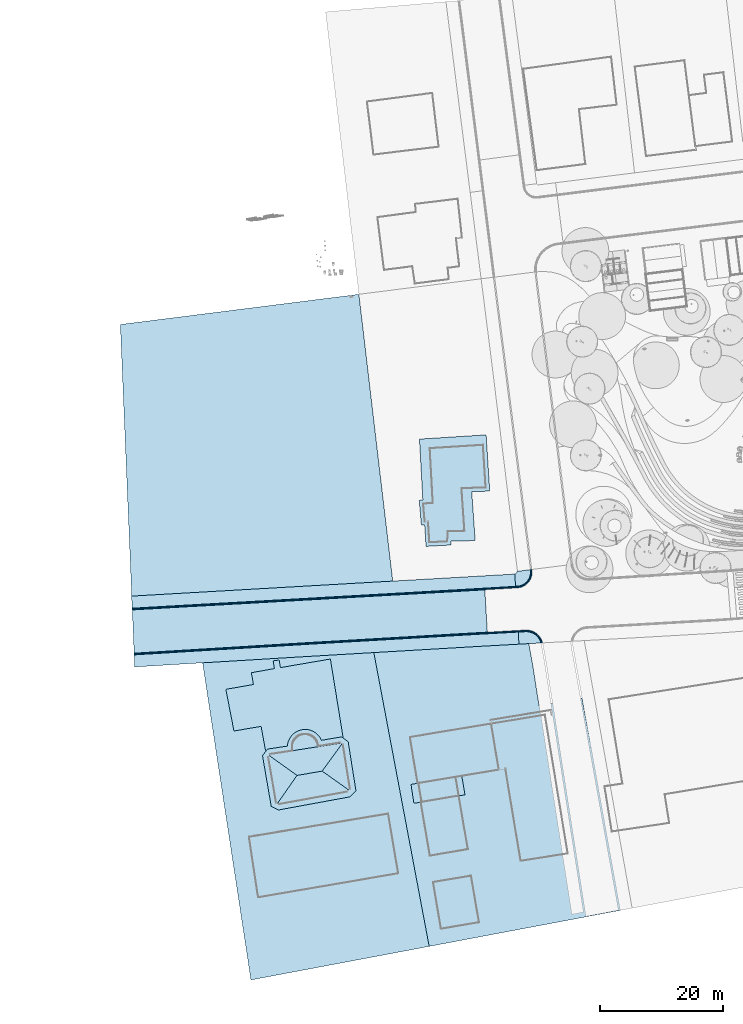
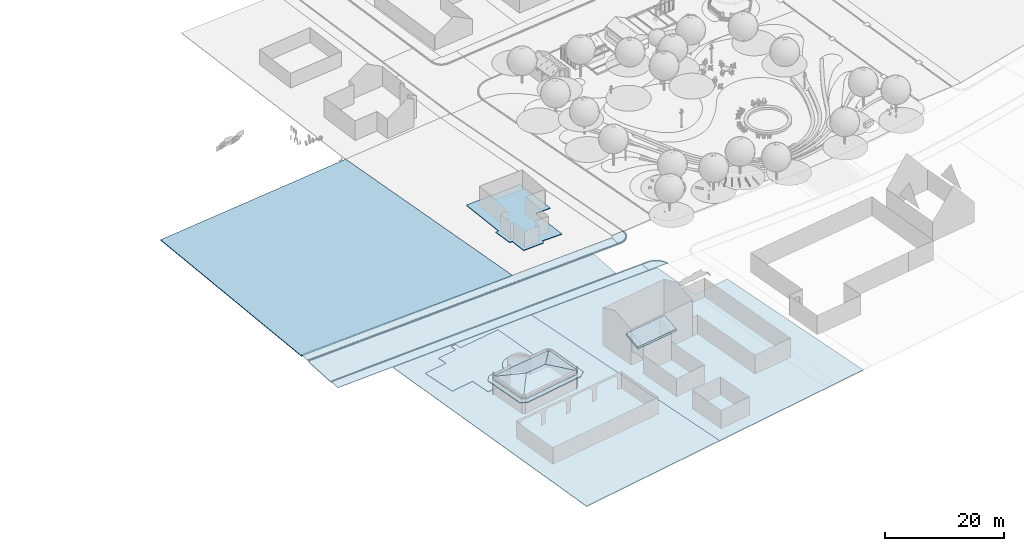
# One storey, part 7 of 75: 20 slabs, 2 elements without a shape of their own.
"""IFC2X3 building model written with IfcOpenShell, lengths in metres."""

import ifcopenshell
import ifcopenshell.guid

model = None  # the IFC model being written
_history = None  # IfcOwnerHistory: only IFC2X3 demands one
_inside = {}  # id of a spatial element -> (the spatial element, [elements in it])
_under = {}  # id of a project, library or spatial element -> (it, [spatial elements below it])
_declared = {}  # id of a project -> (the project, [libraries it declares])
_typed = {}  # id of a type object -> (the type object, [elements of that type])
_made_of = {}  # id of a material, layer set ... -> (it, [elements and type objects made of it])


def new_model(schema):
    """Start an empty IFC model of exactly this schema.

    Asked for "IFC4X3", IfcOpenShell would pick the latest addendum, in which some entities
    have other attributes; the version numbers below select the first issue.
    IFC2X3 requires an IfcOwnerHistory on every rooted entity: one is made here for all.
    """
    global model, _history
    if schema == "IFC4X3":
        model = ifcopenshell.file(schema_version=(4, 3, 0, 0))
    else:
        model = ifcopenshell.file(schema=schema)
    _inside.clear()
    _under.clear()
    _declared.clear()
    _typed.clear()
    _made_of.clear()
    _history = None
    if model.schema == "IFC2X3":
        org = make("IfcOrganization", Name="unknown")
        user = make(
            "IfcPersonAndOrganization",
            ThePerson=make("IfcPerson", FamilyName="unknown"),
            TheOrganization=org,
        )
        app = make(
            "IfcApplication",
            ApplicationDeveloper=org,
            Version="unknown",
            ApplicationFullName="unknown",
            ApplicationIdentifier="unknown",
        )
        _history = make(
            "IfcOwnerHistory",
            OwningUser=user,
            OwningApplication=app,
            ChangeAction="ADDED",
            CreationDate=0,
        )
    return model


def make(cls, **values):
    """One entity of the class cls with the attributes given. An attribute that is None is left unset."""
    return model.create_entity(
        cls, **{name: value for name, value in values.items() if value is not None}
    )


def entity(cls, *values):
    """Any entity or typed value of the class cls, its attributes in the order of the schema. None: left unset."""
    e = model.create_entity(cls)
    for i, value in enumerate(values):
        if value is not None:
            e[i] = value
    return e


def rooted(cls, **values):
    """An entity with a GlobalId (a new one), such as an element, a storey or a relation."""
    return make(cls, GlobalId=ifcopenshell.guid.new(), OwnerHistory=_history, **values)


def si_unit(unit_type, name, prefix=None):
    """IfcSIUnit, for example si_unit("LENGTHUNIT", "METRE", prefix="MILLI")."""
    return make("IfcSIUnit", UnitType=unit_type, Prefix=prefix, Name=name)


def converted_unit(unit_type, name, factor, base, dimensions=None, offset=None):
    """IfcConversionBasedUnit, such as the inch: factor (a typed value) times the base unit."""
    return make(
        "IfcConversionBasedUnit"
        if offset is None
        else "IfcConversionBasedUnitWithOffset",
        ConversionOffset=offset,
        Dimensions=None
        if dimensions is None
        else entity("IfcDimensionalExponents", *dimensions),
        UnitType=unit_type,
        Name=name,
        ConversionFactor=make(
            "IfcMeasureWithUnit", ValueComponent=factor, UnitComponent=base
        ),
    )


def derived_unit(unit_type, elements):
    """IfcDerivedUnit: a product of units, each with its exponent."""
    return make(
        "IfcDerivedUnit",
        Elements=[
            make("IfcDerivedUnitElement", Unit=unit, Exponent=power)
            for unit, power in elements
        ],
        UnitType=unit_type,
    )


def assignment(units):
    """IfcUnitAssignment: the units of a project."""
    return None if units is None else make("IfcUnitAssignment", Units=units)


def point(xyz):
    """IfcCartesianPoint."""
    return None if xyz is None else make("IfcCartesianPoint", Coordinates=xyz)


def direction(xyz):
    """IfcDirection."""
    return None if xyz is None else make("IfcDirection", DirectionRatios=xyz)


def frame(location, z_axis=None, x_axis=None):
    """IfcAxis2Placement3D, a coordinate frame: its origin and axes. An axis left out is left unset."""
    return make(
        "IfcAxis2Placement3D",
        Location=point(location),
        Axis=direction(z_axis),
        RefDirection=direction(x_axis),
    )


def frame_2d(location, x_axis=None):
    """IfcAxis2Placement2D, a coordinate frame in the plane: its origin and x axis."""
    return make(
        "IfcAxis2Placement2D", Location=point(location), RefDirection=direction(x_axis)
    )


def origin():
    """The frame at (0, 0, 0) with its axes left unset."""
    return frame((0.0, 0.0, 0.0))


def place(relative_to, where):
    """IfcLocalPlacement: puts the frame where relative to a parent placement (None: the world)."""
    return make(
        "IfcLocalPlacement", PlacementRelTo=relative_to, RelativePlacement=where
    )


def context(
    kind, dimensions, precision=None, world=None, true_north=None, identifier=None
):
    """IfcGeometricRepresentationContext, for example the 3D "Model" context."""
    return make(
        "IfcGeometricRepresentationContext",
        ContextIdentifier=identifier,
        ContextType=kind,
        CoordinateSpaceDimension=dimensions,
        Precision=precision,
        WorldCoordinateSystem=world,
        TrueNorth=true_north,
    )


def subcontext(parent, identifier, kind, view, scale=None):
    """IfcGeometricRepresentationSubContext, for example "Body" below "Model"."""
    return make(
        "IfcGeometricRepresentationSubContext",
        ContextIdentifier=identifier,
        ContextType=kind,
        ParentContext=parent,
        TargetScale=scale,
        TargetView=view,
    )


def project(units=None, contexts=None):
    """IfcProject with its units and contexts."""
    return rooted(
        "IfcProject",
        Name="project",
        RepresentationContexts=contexts,
        UnitsInContext=assignment(units),
    )


def spatial(cls, under=None, at=None, **own):
    """A site, building, storey or space (cls), placed at a placement, below another one or the project."""
    s = rooted(cls, ObjectPlacement=at, **own)
    if under is not None:
        _under.setdefault(under.id(), (under, []))[1].append(s)
    return s


def polyline(points):
    """IfcPolyline through the points."""
    return make("IfcPolyline", Points=[point(p) for p in points])


def circle_curve(where, radius):
    """IfcCircle in the frame where."""
    return make("IfcCircle", Position=where, Radius=radius)


def parameter(value):
    """IfcParameterValue: where a trimmed curve begins or ends, as a parameter of its basis curve."""
    return model.create_entity("IfcParameterValue", value)


def trimmed(basis, trim1, trim2, sense, master):
    """IfcTrimmedCurve: the piece of a basis curve between two trims."""
    return make(
        "IfcTrimmedCurve",
        BasisCurve=basis,
        Trim1=trim1,
        Trim2=trim2,
        SenseAgreement=sense,
        MasterRepresentation=master,
    )


def segment(curve, same_sense, transition):
    """IfcCompositeCurveSegment."""
    return make(
        "IfcCompositeCurveSegment",
        Transition=transition,
        SameSense=same_sense,
        ParentCurve=curve,
    )


def composite_curve(segments, self_intersect=None):
    """IfcCompositeCurve: segments joined end to end."""
    return make("IfcCompositeCurve", Segments=segments, SelfIntersect=self_intersect)


def outline(outer, holes=None, kind="AREA"):
    """IfcArbitraryClosedProfileDef: a profile drawn as a closed curve; with holes, ...WithVoids."""
    if holes is None:
        return make("IfcArbitraryClosedProfileDef", ProfileType=kind, OuterCurve=outer)
    return make(
        "IfcArbitraryProfileDefWithVoids",
        ProfileType=kind,
        OuterCurve=outer,
        InnerCurves=holes,
    )


def extrude(swept, where, along, depth):
    """IfcExtrudedAreaSolid: the profile swept, set in the frame where, extruded along a direction by depth."""
    return make(
        "IfcExtrudedAreaSolid",
        SweptArea=swept,
        Position=where,
        ExtrudedDirection=direction(along),
        Depth=depth,
    )


def clip(a, b, op="DIFFERENCE"):
    """IfcBooleanClippingResult: the solid a cut by the half space b."""
    return make(
        "IfcBooleanClippingResult", Operator=op, FirstOperand=a, SecondOperand=b
    )


def halfspace(plane, agree):
    """IfcHalfSpaceSolid: all space on one side of the plane z = 0 of the frame plane."""
    return make(
        "IfcHalfSpaceSolid",
        BaseSurface=make("IfcPlane", Position=plane),
        AgreementFlag=agree,
    )


def shape(context_of_items, identifier, shape_type, items):
    """IfcShapeRepresentation: the items that make up one representation, for example the "Body"."""
    return make(
        "IfcShapeRepresentation",
        ContextOfItems=context_of_items,
        RepresentationIdentifier=identifier,
        RepresentationType=shape_type,
        Items=items,
    )


def material(Name=None, Category=None):
    """IfcMaterial."""
    return make("IfcMaterial", Name=Name, Category=Category)


def layer(
    of_material, thickness, ventilated=None, Name=None, Category=None, Priority=None
):
    """IfcMaterialLayer: one layer of a wall or slab, of a material (None: an air gap)."""
    return make(
        "IfcMaterialLayer",
        Material=of_material,
        LayerThickness=thickness,
        IsVentilated=ventilated,
        Name=Name,
        Category=Category,
        Priority=Priority,
    )


def layer_set(layers, Name=None):
    """IfcMaterialLayerSet."""
    return make("IfcMaterialLayerSet", MaterialLayers=layers, LayerSetName=Name)


def layer_usage(for_layer_set, set_direction, sense, offset, extent=None):
    """IfcMaterialLayerSetUsage: how a layer set lies in its element."""
    return make(
        "IfcMaterialLayerSetUsage",
        ForLayerSet=for_layer_set,
        LayerSetDirection=set_direction,
        DirectionSense=sense,
        OffsetFromReferenceLine=offset,
        ReferenceExtent=extent,
    )


def made_of(thing, what):
    """Note that an element or type object is made of a material, layer set ...; save() writes the relation."""
    if what is not None:
        _made_of.setdefault(what.id(), (what, []))[1].append(thing)
    return thing


def type_object(cls, material=None, **own):
    """A type object (cls), such as IfcWallType, which elements share."""
    return made_of(rooted(cls, **own), material)


def element(
    cls,
    number,
    at=None,
    inside=None,
    cuts=None,
    type_object=None,
    material=None,
    context=None,
    identifier="Body",
    shape_type=None,
    held_by="IfcProductDefinitionShape",
    body=None,
    shapes=None,
    **own,
):
    """One element of the class cls, such as IfcWall. Its Tag is "e" and its number.

    at: its placement. inside: the storey or other place that contains it. cuts: it is an
    opening in that element (IfcRelVoidsElement). A single representation is given by context,
    identifier, shape_type and body (its items); several are given by shapes. held_by: the class
    of the entity that holds the representations. save() writes the other relations.
    """
    e = rooted(cls, Tag="e%d" % number, ObjectPlacement=at, **own)
    if body is not None:
        shapes = [shape(context, identifier, shape_type, body)]
    if shapes is not None:
        e.Representation = make(held_by, Representations=shapes)
    if inside is not None:
        _inside.setdefault(inside.id(), (inside, []))[1].append(e)
    if cuts is not None:
        rooted(
            "IfcRelVoidsElement", RelatingBuildingElement=cuts, RelatedOpeningElement=e
        )
    if type_object is not None:
        _typed.setdefault(type_object.id(), (type_object, []))[1].append(e)
    return made_of(e, material)


def aggregate(whole, parts):
    """IfcRelAggregates: a whole, such as a stair, and the parts it consists of."""
    return rooted("IfcRelAggregates", RelatingObject=whole, RelatedObjects=parts)


def save(model, path):
    """Write the relations noted so far, then the file.

    IfcRelAggregates (storeys below a building ...), IfcRelContainedInSpatialStructure (elements
    in a storey), IfcRelDefinesByType, IfcRelAssociatesMaterial and IfcRelDeclares: one each for
    every whole, place, type object, material and project.
    """
    for whole, parts in _under.values():
        aggregate(whole, parts)
    for where, things in _inside.values():
        rooted(
            "IfcRelContainedInSpatialStructure",
            RelatedElements=things,
            RelatingStructure=where,
        )
    for kind, things in _typed.values():
        rooted("IfcRelDefinesByType", RelatedObjects=things, RelatingType=kind)
    for what, things in _made_of.values():
        rooted("IfcRelAssociatesMaterial", RelatedObjects=things, RelatingMaterial=what)
    for by, libraries in _declared.values():
        rooted("IfcRelDeclares", RelatingContext=by, RelatedDefinitions=libraries)
    model.write(path)


model = new_model("IFC2X3")

# Units and contexts
model_context = context("Model", 3, precision=1e-05, world=origin(), true_north=direction((6.123031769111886e-17, 1.0)))
body_context = subcontext(model_context, "Body", "Model", "MODEL_VIEW")
ifc_project = project(units=[si_unit("LENGTHUNIT", "METRE"), si_unit("AREAUNIT", "SQUARE_METRE"), si_unit("VOLUMEUNIT", "CUBIC_METRE"), converted_unit("PLANEANGLEUNIT", "DEGREE", entity("IfcRatioMeasure", 0.017453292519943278), si_unit("PLANEANGLEUNIT", "RADIAN"), dimensions=[0, 0, 0, 0, 0, 0, 0]), si_unit("MASSUNIT", "GRAM", prefix="KILO"), derived_unit("MASSDENSITYUNIT", [(si_unit("MASSUNIT", "GRAM", prefix="KILO"), 1), (si_unit("LENGTHUNIT", "METRE"), -3)]), derived_unit("IONCONCENTRATIONUNIT", [(si_unit("MASSUNIT", "GRAM", prefix="KILO"), 1), (si_unit("LENGTHUNIT", "METRE"), -3)]), derived_unit("MOMENTOFINERTIAUNIT", [(si_unit("LENGTHUNIT", "METRE"), 4)]), si_unit("TIMEUNIT", "SECOND"), si_unit("FREQUENCYUNIT", "HERTZ"), si_unit("THERMODYNAMICTEMPERATUREUNIT", "DEGREE_CELSIUS"), derived_unit("THERMALTRANSMITTANCEUNIT", [(si_unit("MASSUNIT", "GRAM", prefix="KILO"), 1), (si_unit("THERMODYNAMICTEMPERATUREUNIT", "KELVIN"), -1), (si_unit("TIMEUNIT", "SECOND"), -3)]), derived_unit("THERMALCONDUCTANCEUNIT", [(si_unit("MASSUNIT", "GRAM", prefix="KILO"), 1), (si_unit("THERMODYNAMICTEMPERATUREUNIT", "KELVIN"), -1), (si_unit("TIMEUNIT", "SECOND"), -3), (si_unit("LENGTHUNIT", "METRE"), 1)]), derived_unit("VOLUMETRICFLOWRATEUNIT", [(si_unit("LENGTHUNIT", "METRE"), 3), (si_unit("TIMEUNIT", "SECOND"), -1)]), derived_unit("MASSFLOWRATEUNIT", [(si_unit("MASSUNIT", "GRAM", prefix="KILO"), 1), (si_unit("TIMEUNIT", "SECOND"), -1)]), derived_unit("ROTATIONALFREQUENCYUNIT", [(si_unit("TIMEUNIT", "SECOND"), -1)]), si_unit("ELECTRICCURRENTUNIT", "AMPERE"), si_unit("ELECTRICVOLTAGEUNIT", "VOLT"), si_unit("POWERUNIT", "WATT"), si_unit("FORCEUNIT", "NEWTON", prefix="KILO"), si_unit("ILLUMINANCEUNIT", "LUX"), si_unit("LUMINOUSFLUXUNIT", "LUMEN"), si_unit("LUMINOUSINTENSITYUNIT", "CANDELA"), derived_unit("USERDEFINED", [(si_unit("MASSUNIT", "GRAM", prefix="KILO"), -1), (si_unit("LENGTHUNIT", "METRE"), -2), (si_unit("TIMEUNIT", "SECOND"), 3), (si_unit("LUMINOUSFLUXUNIT", "LUMEN"), 1)]), derived_unit("USERDEFINED", [(si_unit("MASSUNIT", "GRAM", prefix="KILO"), 1), (si_unit("TIMEUNIT", "SECOND"), -3), (si_unit("LENGTHUNIT", "METRE"), 3), (si_unit("ELECTRICCURRENTUNIT", "AMPERE"), -2)]), derived_unit("SOUNDPOWERUNIT", [(si_unit("MASSUNIT", "GRAM", prefix="KILO"), 1), (si_unit("TIMEUNIT", "SECOND"), -3), (si_unit("LENGTHUNIT", "METRE"), 2)]), derived_unit("SOUNDPRESSUREUNIT", [(si_unit("MASSUNIT", "GRAM", prefix="KILO"), 1), (si_unit("LENGTHUNIT", "METRE"), -1), (si_unit("TIMEUNIT", "SECOND"), -2)]), derived_unit("LINEARVELOCITYUNIT", [(si_unit("LENGTHUNIT", "METRE"), 1), (si_unit("TIMEUNIT", "SECOND"), -1)]), si_unit("PRESSUREUNIT", "PASCAL"), derived_unit("USERDEFINED", [(si_unit("MASSUNIT", "GRAM", prefix="KILO"), 1), (si_unit("LENGTHUNIT", "METRE"), -2), (si_unit("TIMEUNIT", "SECOND"), -2)]), derived_unit("LINEARFORCEUNIT", [(si_unit("MASSUNIT", "GRAM", prefix="KILO"), 1), (si_unit("TIMEUNIT", "SECOND"), -2)]), derived_unit("PLANARFORCEUNIT", [(si_unit("MASSUNIT", "GRAM", prefix="KILO"), 1), (si_unit("LENGTHUNIT", "METRE"), -1), (si_unit("TIMEUNIT", "SECOND"), -2)]), derived_unit("SPECIFICHEATCAPACITYUNIT", [(si_unit("THERMODYNAMICTEMPERATUREUNIT", "KELVIN"), -1), (si_unit("LENGTHUNIT", "METRE"), 2), (si_unit("TIMEUNIT", "SECOND"), -2)]), derived_unit("HEATINGVALUEUNIT", [(si_unit("LENGTHUNIT", "METRE"), 2), (si_unit("TIMEUNIT", "SECOND"), -2)]), derived_unit("VAPORPERMEABILITYUNIT", [(si_unit("LENGTHUNIT", "METRE"), -1), (si_unit("TIMEUNIT", "SECOND"), 1)]), derived_unit("DYNAMICVISCOSITYUNIT", [(si_unit("MASSUNIT", "GRAM", prefix="KILO"), 1), (si_unit("TIMEUNIT", "SECOND"), -1), (si_unit("LENGTHUNIT", "METRE"), -1)]), derived_unit("THERMALEXPANSIONCOEFFICIENTUNIT", [(si_unit("THERMODYNAMICTEMPERATUREUNIT", "KELVIN"), -1)]), derived_unit("MODULUSOFELASTICITYUNIT", [(si_unit("MASSUNIT", "GRAM", prefix="KILO"), 1), (si_unit("LENGTHUNIT", "METRE"), -1), (si_unit("TIMEUNIT", "SECOND"), -2)]), derived_unit("ISOTHERMALMOISTURECAPACITYUNIT", [(si_unit("LENGTHUNIT", "METRE"), 3), (si_unit("MASSUNIT", "GRAM", prefix="KILO"), -1)]), derived_unit("MOISTUREDIFFUSIVITYUNIT", [(si_unit("TIMEUNIT", "SECOND"), -1), (si_unit("LENGTHUNIT", "METRE"), 2)])], contexts=[model_context])

# Site, building, storey
site_placement = place(None, origin())
site = spatial("IfcSite", under=ifc_project, at=site_placement, Name="Default", CompositionType="ELEMENT")
building_placement = place(site_placement, origin())
building = spatial("IfcBuilding", under=site, at=building_placement, Name="Projeto", CompositionType="ELEMENT")
storey_placement = place(building_placement, origin())
storey = spatial("IfcBuildingStorey", under=building, at=storey_placement, Name="Nível 1", CompositionType="ELEMENT", Elevation=0.0)

# Slabs
ifc_material_1 = material(Name="Piso CAJOI PASSEIO(1)")
ifc_layer_1 = layer(ifc_material_1, 0.1)
ifc_layer_set_1 = layer_set([ifc_layer_1], Name="Piso:Basalto 40x80")
ifc_layer_usage_1 = layer_usage(ifc_layer_set_1, "AXIS3", "POSITIVE", 0.0)
slab_type_1 = type_object("IfcSlabType", Name="Piso:Basalto 40x80", PredefinedType="FLOOR", material=ifc_layer_set_1)
slab_1_placement = place(storey_placement, origin())
element("IfcSlab", 1, at=slab_1_placement, inside=storey, type_object=slab_type_1, material=ifc_layer_usage_1, Name="Piso:Basalto 40x80", ObjectType="Piso:Basalto 40x80", PredefinedType="FLOOR", context=body_context, shape_type="SweptSolid", body=[
    extrude(outline(composite_curve([segment(polyline([(-0.5007781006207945, -0.8941556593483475), (1.662455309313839, -0.894155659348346)]), True, "CONTINUOUS"), segment(polyline([(1.662455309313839, -0.894155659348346), (1.6625100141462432, -0.7599379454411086)]), True, "CONTINUOUS"), segment(trimmed(circle_curve(frame_2d((-0.6374897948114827, -0.7590005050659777), x_axis=(0.9999999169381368, -0.0004075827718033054)), 2.299999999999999), [parameter(0.0)], [parameter(93.83933193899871)], True, "PARAMETER"), True, "CONTINUOUS"), segment(polyline([(-0.7905597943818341, 1.5359002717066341), (-1.084190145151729, 1.5163151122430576)]), True, "CONTINUOUS"), segment(polyline([(-1.084190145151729, 1.5163151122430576), (-0.9494372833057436, -0.503966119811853)]), True, "CONTINUOUS"), segment(trimmed(circle_curve(frame_2d((-1.1091219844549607, -1.1406194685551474), x_axis=(0.24328313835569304, 0.9699553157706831)), 0.6563738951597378), [parameter(306.1351823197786)], [parameter(0.0)], True, "PARAMETER"), False, "CONTINUOUS")], self_intersect=False)), frame((-31.606288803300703, -20.07325564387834, 0.0), z_axis=(0.0, 0.0, -1.0), x_axis=(0.9920867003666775, 0.125554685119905, 0.0)), (0.0, 0.0, 1.0), 0.09999999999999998),
])
slab_2_placement = place(storey_placement, origin())
element("IfcSlab", 2, at=slab_2_placement, inside=storey, type_object=slab_type_1, material=ifc_layer_usage_1, Name="Piso:Basalto 40x80", ObjectType="Piso:Basalto 40x80", PredefinedType="FLOOR", context=body_context, shape_type="SweptSolid", body=[
    extrude(outline(composite_curve([segment(trimmed(circle_curve(frame_2d((-1.5000000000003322, -0.03151306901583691), x_axis=(1.0, 0.0)), 2.5000000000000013), [parameter(0.0)], [parameter(78.46304096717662)], True, "PARAMETER"), True, "CONTINUOUS"), segment(polyline([(-1.0, 2.417976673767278), (-1.0, -1.1889263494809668)]), True, "CONTINUOUS"), segment(polyline([(-1.0, -1.1889263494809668), (1.0, -1.1975372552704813)]), True, "CONTINUOUS"), segment(polyline([(1.0, -1.1975372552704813), (1.0, -0.0315130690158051)]), True, "CONTINUOUS")], self_intersect=False)), frame((-30.805039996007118, -29.988611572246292, 0.0), z_axis=(0.0, 0.0, -1.0), x_axis=(-0.0549523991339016, 0.9984889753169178, 0.0)), (0.0, 0.0, 1.0), 0.09999999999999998),
])
ifc_layer_2 = layer(ifc_material_1, 0.1)
ifc_layer_set_2 = layer_set([ifc_layer_2], Name="Piso:Basalto Flameado 40x20 (Passeio)")
ifc_layer_usage_2 = layer_usage(ifc_layer_set_2, "AXIS3", "POSITIVE", 0.0)
slab_type_2 = type_object("IfcSlabType", Name="Piso:Basalto Flameado 40x20 (Passeio)", PredefinedType="FLOOR", material=ifc_layer_set_2)
slab_3_placement = place(storey_placement, origin())
element("IfcSlab", 3, at=slab_3_placement, inside=storey, type_object=slab_type_2, material=ifc_layer_usage_2, Name="Piso:Basalto Flameado 40x20 (Passeio)", ObjectType="Piso:Basalto Flameado 40x20 (Passeio)", PredefinedType="FLOOR", context=body_context, shape_type="SweptSolid", body=[
    extrude(outline(polyline([(-29.485096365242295, -1.513946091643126), (32.72028772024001, -1.5139460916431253), (32.723928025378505, 0.5108208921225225), (23.693201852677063, 0.5270571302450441), (2.3523114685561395, 0.5128139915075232), (-11.686166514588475, 0.5050923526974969), (-20.833369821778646, 0.486053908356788), (-29.485096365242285, 0.4860539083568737), (-29.485096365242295, -1.513946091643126)])), frame((-65.19073811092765, -23.083904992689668, 0.0), z_axis=(0.0, 0.0, -1.0), x_axis=(0.9983480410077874, 0.05745597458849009, 0.0)), (0.0, 0.0, 1.0), 0.1),
])
slab_4_placement = place(storey_placement, origin())
element("IfcSlab", 4, at=slab_4_placement, inside=storey, type_object=slab_type_2, material=ifc_layer_usage_2, Name="Piso:Basalto Flameado 40x20 (Passeio)", ObjectType="Piso:Basalto Flameado 40x20 (Passeio)", PredefinedType="FLOOR", context=body_context, shape_type="SweptSolid", body=[
    extrude(outline(polyline([(-0.9835457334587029, -25.414944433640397), (1.0164728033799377, -25.414944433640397), (0.9948454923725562, -20.391707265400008), (0.9750763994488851, 8.866900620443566), (1.0136384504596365, 36.95932310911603), (-0.9864112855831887, 36.92446312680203), (-1.024924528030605, 8.867597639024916), (-1.0051515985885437, -20.396688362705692), (-0.9835457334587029, -25.414944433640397)])), frame((-57.367737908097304, -31.543603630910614, 0.0), z_axis=(0.0, 0.0, -1.0), x_axis=(0.05925079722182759, -0.9982431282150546, 0.0)), (0.0, 0.0, 1.0), 0.1),
])

# Roof, slab
ifc_material_2 = material(Name="NBS_Betafence_GreenRAL6005")
ifc_layer_3 = layer(ifc_material_2, 0.4)
ifc_layer_set_3 = layer_set([ifc_layer_3], Name="Telhado básico:Genérico - 400 mm")
roof_1_placement = place(storey_placement, frame((-49.42870059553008, -56.83535007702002, 5.3999999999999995)))
roof_1 = element("IfcRoof", 5, at=roof_1_placement, inside=storey, material=ifc_layer_set_3, Name="Telhado básico:Genérico - 400 mm", ObjectType="Telhado básico:Genérico - 400 mm", ShapeType="NOTDEFINED")
slab_type_3 = type_object("IfcSlabType", Name="Telhado básico:Genérico - 400 mm", PredefinedType="ROOF")
slab_5_placement = place(roof_1_placement, origin())
slab_5 = element("IfcSlab", 6, at=slab_5_placement, type_object=slab_type_3, material=ifc_layer_set_3, Name="Telhado básico:Genérico - 400 mm", ObjectType="Telhado básico:Genérico - 400 mm", PredefinedType="ROOF", context=body_context, shape_type="SweptSolid", body=[
    extrude(outline(polyline([(3.882885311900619, 2.267698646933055), (-4.357136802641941, 0.9830090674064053), (-3.890705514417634, -2.272600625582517), (4.398719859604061, -0.9765073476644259), (3.882885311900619, 2.267698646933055)])), frame((4.350265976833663, 2.2127234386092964, 0.562380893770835), z_axis=(0.05613679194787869, -0.3373817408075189, 0.9396926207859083), x_axis=(0.9984230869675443, 0.01896944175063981, -0.05283464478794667)), (-0.05283464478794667, 0.33791460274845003, 0.9396926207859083), 0.4256711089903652),
])
aggregate(roof_1, [slab_5])

# Roof, slabs
roof_2_placement = place(storey_placement, frame((-72.53714116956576, -56.975484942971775, 2.8999999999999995)))
roof_2 = element("IfcRoof", 7, at=roof_2_placement, inside=storey, material=ifc_layer_set_3, Name="Telhado básico:Genérico - 400 mm", ObjectType="Telhado básico:Genérico - 400 mm", ShapeType="NOTDEFINED")
slab_6_placement = place(roof_2_placement, origin())
slab_6 = element("IfcSlab", 8, at=slab_6_placement, type_object=slab_type_3, material=ifc_layer_set_3, Name="Telhado básico:Genérico - 400 mm", ObjectType="Telhado básico:Genérico - 400 mm", PredefinedType="ROOF", context=body_context, shape_type="SweptSolid", body=[
    extrude(outline(polyline([(1.2743778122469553, 4.030033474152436), (-2.037134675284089, -0.41222806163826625), (2.429211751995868, -3.423305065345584), (2.632861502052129, -3.224205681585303), (1.4667477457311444, 3.8939820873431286), (1.2743778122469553, 4.030033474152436)])), frame((10.678472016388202, 5.74408384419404, 0.5375621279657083), z_axis=(0.2556382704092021, 0.04045210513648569, 0.965925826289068), x_axis=(0.96677250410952, -0.010696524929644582, -0.2554143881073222)), (-0.2554143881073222, -0.04184242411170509, 0.965925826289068), 0.4141104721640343),
])
slab_7_placement = place(roof_2_placement, origin())
slab_7 = element("IfcSlab", 9, at=slab_7_placement, type_object=slab_type_3, material=ifc_layer_set_3, Name="Telhado básico:Genérico - 400 mm", ObjectType="Telhado básico:Genérico - 400 mm", PredefinedType="ROOF", context=body_context, shape_type="SweptSolid", body=[
    extrude(outline(polyline([(-5.151001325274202, -3.0528201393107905), (5.82253600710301, -1.102299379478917), (6.103720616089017, -0.8155063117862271), (1.7810349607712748, 2.3984046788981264), (-2.294657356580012, 1.7293716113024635), (-5.443998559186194, -2.896058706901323), (-5.151001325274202, -3.0528201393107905)])), frame((6.9299461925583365, 3.0135215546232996, 0.5446222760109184), z_axis=(0.046840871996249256, -0.2545451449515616, 0.9659258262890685), x_axis=(0.9989023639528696, 0.011936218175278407, -0.04529452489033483)), (-0.04529452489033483, 0.2548248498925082, 0.9659258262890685), 0.4141104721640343),
])
slab_8_placement = place(roof_2_placement, origin())
slab_8 = element("IfcSlab", 10, at=slab_8_placement, type_object=slab_type_3, material=ifc_layer_set_3, Name="Telhado básico:Genérico - 400 mm", ObjectType="Telhado básico:Genérico - 400 mm", PredefinedType="ROOF", context=body_context, shape_type="SweptSolid", body=[
    extrude(outline(polyline([(-2.724491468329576, 3.288301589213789), (-1.4098958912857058, -4.0762622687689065), (-1.181537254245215, -4.185450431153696), (2.0719517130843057, 0.36732511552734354), (-2.549693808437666, 3.51941508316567), (-2.724491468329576, 3.288301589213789)])), frame((2.6343827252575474, 4.3155023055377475, 0.544622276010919), z_axis=(-0.2550555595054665, -0.043976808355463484, 0.9659258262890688), x_axis=(0.9669263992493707, -0.011600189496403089, 0.2547916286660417)), (0.2547916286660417, 0.04548102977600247, 0.9659258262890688), 0.4141104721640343),
])
slab_9_placement = place(roof_2_placement, origin())
slab_9 = element("IfcSlab", 11, at=slab_9_placement, type_object=slab_type_3, material=ifc_layer_set_3, Name="Telhado básico:Genérico - 400 mm", ObjectType="Telhado básico:Genérico - 400 mm", PredefinedType="ROOF", context=body_context, shape_type="SweptSolid", body=[
    extrude(outline(polyline([(5.40463220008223, 2.952091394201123), (-5.989839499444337, 1.2158321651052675), (-6.1638457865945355, 0.9741723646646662), (-1.6914159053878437, -2.3862813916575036), (2.3831178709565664, -1.710228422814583), (5.587203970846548, 2.8101293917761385), (5.40463220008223, 2.952091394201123)])), frame((6.327847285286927, 6.982714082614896, 0.5446222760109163), z_axis=(-0.04033063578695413, 0.2556574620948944, 0.9659258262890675), x_axis=(0.999186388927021, 0.01031922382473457, 0.03898812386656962)), (0.03898812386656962, -0.25586563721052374, 0.9659258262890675), 0.4141104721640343),
])
aggregate(roof_2, [slab_6, slab_7, slab_8, slab_9])

# Slabs
ifc_material_3 = material(Name="Basalto")
ifc_layer_4 = layer(ifc_material_3, 0.15000000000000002)
ifc_layer_set_4 = layer_set([ifc_layer_4], Name="Piso:Basalto")
ifc_layer_usage_3 = layer_usage(ifc_layer_set_4, "AXIS3", "POSITIVE", 0.0)
slab_type_4 = type_object("IfcSlabType", Name="Piso:Basalto", PredefinedType="FLOOR", material=ifc_layer_set_4)
slab_10_placement = place(storey_placement, origin())
element("IfcSlab", 12, at=slab_10_placement, inside=storey, type_object=slab_type_4, material=ifc_layer_usage_3, Name="Piso:Basalto", ObjectType="Piso:Basalto", PredefinedType="FLOOR", context=body_context, shape_type="SweptSolid", body=[
    clip(clip(extrude(outline(polyline([(-3.6854602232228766, -11.231284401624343), (7.142852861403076, -11.231284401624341), (7.147007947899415, -2.0908302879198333), (4.233178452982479, -2.1640316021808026), (4.288455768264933, 5.783346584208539), (0.37750473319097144, 5.624679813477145), (0.29394952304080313, 6.243615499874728), (-3.714208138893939, 6.2125258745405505), (-3.720516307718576, 2.7788228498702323), (-4.251690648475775, 2.722865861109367), (-4.349133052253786, -1.3209132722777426), (-3.761940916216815, -1.3275125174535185), (-3.6854602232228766, -11.231284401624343)])), frame((-43.67661896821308, -8.781718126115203, -0.5984104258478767), z_axis=(0.006564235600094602, -0.051868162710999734, -0.9986323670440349), x_axis=(0.9979977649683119, 0.06316412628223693, 0.003279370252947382)), (-0.003279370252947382, -0.05217893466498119, 0.9986323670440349), 0.1504111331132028), halfspace(frame((-31.254801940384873, -18.731025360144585, -0.15020542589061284), z_axis=(0.006564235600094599, -0.05186816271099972, -0.9986323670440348), x_axis=(-0.12538297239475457, 0.9907298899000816, -0.052281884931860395)), False)), halfspace(frame((-31.254801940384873, -18.731025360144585, 0.0), z_axis=(-0.006564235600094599, 0.05186816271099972, 0.9986323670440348), x_axis=(0.12538297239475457, -0.9907298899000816, 0.052281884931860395)), False)),
])
slab_11_placement = place(storey_placement, origin())
element("IfcSlab", 13, at=slab_11_placement, inside=storey, type_object=slab_type_4, material=ifc_layer_usage_3, Name="Piso:Basalto", ObjectType="Piso:Basalto", PredefinedType="FLOOR", context=body_context, shape_type="SweptSolid", body=[
    extrude(outline(polyline([(-3.839018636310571, -10.096055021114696), (9.075843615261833, -10.096055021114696), (9.151803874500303, 2.653705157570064), (5.135249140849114, 2.7307514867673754), (5.178835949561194, 7.192467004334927), (-1.6963963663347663, 7.405868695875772), (-1.7545509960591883, 2.8663153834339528), (-3.696931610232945, 2.897718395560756), (-3.7583006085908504, -0.8981580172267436), (-5.022221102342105, -0.8985947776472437), (-5.012678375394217, -1.8730866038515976), (-3.7616348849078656, -1.884876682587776), (-3.839018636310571, -10.096055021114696)])), frame((-71.84277893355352, -38.86115703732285, -0.05), z_axis=(0.0, 0.0, -1.0), x_axis=(0.15977643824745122, -0.9871532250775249, 0.0)), (0.0, 0.0, 1.0), 0.04999999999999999),
])
ifc_material_4 = material(Name="Concreto, Faixa de areia/cimento")
ifc_layer_5 = layer(ifc_material_4, 0.05)
ifc_material_5 = material(Name="Concreto, Moldado no local")
ifc_layer_6 = layer(ifc_material_5, 0.17500000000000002)
ifc_layer_set_5 = layer_set([ifc_layer_5, ifc_layer_6], Name="Piso:Concreto moldado em loco 225 mm")
ifc_layer_usage_4 = layer_usage(ifc_layer_set_5, "AXIS3", "POSITIVE", 0.0)
slab_type_5 = type_object("IfcSlabType", Name="Piso:Concreto moldado em loco 225 mm", PredefinedType="FLOOR", material=ifc_layer_set_5)
slab_12_placement = place(storey_placement, frame((-94.59082948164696, -32.54686908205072, -0.34500000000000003)))
element("IfcSlab", 14, at=slab_12_placement, inside=storey, type_object=slab_type_5, material=ifc_layer_usage_4, Name="Piso:Concreto moldado em loco 225 mm:2", ObjectType="Piso:Concreto moldado em loco 225 mm", PredefinedType="FLOOR", context=body_context, shape_type="SweptSolid", body=[
    extrude(outline(polyline([(27.439965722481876, -11.247974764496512), (56.67230399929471, -12.963242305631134), (84.67404606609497, -14.663863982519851), (84.97072982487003, -7.580095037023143), (76.33038229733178, -7.0828339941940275), (67.19725084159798, -6.57628255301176), (53.18136731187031, -5.777388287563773), (27.85019597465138, -4.336514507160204), (27.439965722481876, -11.247974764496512)])), frame((84.97072982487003, 14.663863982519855, 0.225), z_axis=(0.0, 0.0, -1.0), x_axis=(-1.0, 0.0, 0.0)), (0.0, 0.0, 1.0), 0.225),
])
ifc_material_6 = material(Name="Concreto moldado In loco")
ifc_layer_7 = layer(ifc_material_6, 0.12)
ifc_layer_set_6 = layer_set([ifc_layer_7], Name="Piso:meio fio de concreto")
ifc_layer_usage_5 = layer_usage(ifc_layer_set_6, "AXIS3", "POSITIVE", 0.0)
slab_type_6 = type_object("IfcSlabType", Name="Piso:meio fio de concreto", PredefinedType="FLOOR", material=ifc_layer_set_6)
slab_13_placement = place(storey_placement, frame((-32.49151896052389, -30.854733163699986, -0.12)))
element("IfcSlab", 15, at=slab_13_placement, inside=storey, type_object=slab_type_6, material=ifc_layer_usage_5, Name="Piso:meio fio de concreto:2", ObjectType="Piso:meio fio de concreto", PredefinedType="FLOOR", context=body_context, shape_type="SweptSolid", body=[
    extrude(outline(composite_curve([segment(polyline([(42.01922721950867, -1.817048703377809), (42.031077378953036, -1.6174000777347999)]), True, "CONTINUOUS"), segment(polyline([(42.031077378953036, -1.6174000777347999), (41.73731160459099, -1.5999635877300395)]), True, "CONTINUOUS"), segment(trimmed(circle_curve(frame_2d((41.87358843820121, 0.695995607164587), x_axis=(-1.0, 0.0)), 2.3), [parameter(352.7638579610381)], [parameter(86.6031899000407)], True, "PARAMETER"), False, "CONTINUOUS"), segment(polyline([(39.59190691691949, 0.9857013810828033), (39.60881285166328, 1.1188501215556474)]), True, "CONTINUOUS"), segment(polyline([(39.60881285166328, 1.1188501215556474), (39.410395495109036, 1.143961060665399)]), True, "CONTINUOUS"), segment(polyline([(39.410395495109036, 1.143961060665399), (39.39349982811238, 1.0108931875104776)]), True, "CONTINUOUS"), segment(trimmed(circle_curve(frame_2d((41.87358843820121, 0.695995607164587), x_axis=(-1.0, 0.0)), 2.4999999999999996), [parameter(352.7638579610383)], [parameter(86.60318990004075)], True, "PARAMETER"), True, "CONTINUOUS"), segment(polyline([(41.72546144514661, -1.7996122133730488), (42.01922721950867, -1.817048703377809)]), True, "CONTINUOUS")], self_intersect=False)), frame((42.031077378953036, 10.758436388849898, 0.12), z_axis=(0.0, 0.0, -1.0), x_axis=(-1.0, 0.0, 0.0)), (0.0, 0.0, 1.0), 0.12),
])
slab_14_placement = place(storey_placement, frame((-32.49151896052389, -30.854733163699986, -0.12)))
element("IfcSlab", 16, at=slab_14_placement, inside=storey, type_object=slab_type_6, material=ifc_layer_usage_5, Name="Piso:meio fio de concreto:3", ObjectType="Piso:meio fio de concreto", PredefinedType="FLOOR", context=body_context, shape_type="SweptSolid", body=[
    extrude(outline(composite_curve([segment(trimmed(circle_curve(frame_2d((40.2936352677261, -11.391779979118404), x_axis=(-1.0, 0.0)), 2.6999999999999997), [parameter(266.84987265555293)], [parameter(346.19013941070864)], True, "PARAMETER"), True, "CONTINUOUS"), segment(polyline([(37.671683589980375, -10.74728839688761), (37.87519033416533, -10.75843638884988)]), True, "CONTINUOUS"), segment(trimmed(circle_curve(frame_2d((40.2936352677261, -11.391779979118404), x_axis=(-1.0, 0.0)), 2.4999999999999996), [parameter(266.84987265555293)], [parameter(345.32490725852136)], True, "PARAMETER"), False, "CONTINUOUS"), segment(polyline([(40.43101626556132, -8.895557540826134), (41.59527856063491, -8.959633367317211)]), True, "CONTINUOUS"), segment(polyline([(41.59527856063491, -8.959633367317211), (41.60712882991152, -8.759982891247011)]), True, "CONTINUOUS"), segment(polyline([(41.60712882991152, -8.759982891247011), (40.44200674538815, -8.695859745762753)]), True, "CONTINUOUS")], self_intersect=False)), frame((42.031077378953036, 10.758436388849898, 0.12), z_axis=(0.0, 0.0, -1.0), x_axis=(-1.0, 0.0, 0.0)), (0.0, 0.0, 1.0), 0.12),
])
ifc_material_7 = material(Name="<Unnamed>")
ifc_layer_8 = layer(ifc_material_7, 0.14999999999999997)
ifc_layer_set_7 = layer_set([ifc_layer_8], Name="Piso:Genérico 150 mm")
ifc_layer_usage_6 = layer_usage(ifc_layer_set_7, "AXIS3", "POSITIVE", 0.0)
slab_type_7 = type_object("IfcSlabType", Name="Piso:Genérico 150 mm", PredefinedType="FLOOR", material=ifc_layer_set_7)
slab_15_placement = place(storey_placement, origin())
element("IfcSlab", 17, at=slab_15_placement, inside=storey, type_object=slab_type_7, material=ifc_layer_usage_6, Name="Piso:Genérico 150 mm", ObjectType="Piso:Genérico 150 mm", PredefinedType="FLOOR", context=body_context, shape_type="SweptSolid", body=[
    extrude(outline(polyline([(-13.812260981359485, -5.290570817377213), (-10.377776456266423, -5.290570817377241), (-3.5928781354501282, -5.121183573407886), (-3.639925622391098, -12.188824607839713), (31.35929893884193, -12.421805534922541), (31.570830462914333, 19.355213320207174), (-16.871989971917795, 19.677684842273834), (-14.635298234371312, 1.2800571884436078), (-13.812260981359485, -5.290570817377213)])), frame((-33.07917723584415, -45.49973916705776, -0.1), z_axis=(0.0, 0.0, -1.0), x_axis=(0.1786273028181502, -0.983916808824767, 0.0)), (0.0, 0.0, 1.0), 0.14999999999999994),
])
slab_16_placement = place(storey_placement, origin())
element("IfcSlab", 18, at=slab_16_placement, inside=storey, type_object=slab_type_7, material=ifc_layer_usage_6, Name="Piso:Genérico 150 mm", ObjectType="Piso:Genérico 150 mm", PredefinedType="FLOOR", context=body_context, shape_type="SweptSolid", body=[
    extrude(outline(polyline([(-18.403821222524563, -13.52070922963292), (30.040072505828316, -13.52070922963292), (30.04007250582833, 15.871053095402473), (-21.90723310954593, 14.052800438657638), (-19.769090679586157, -2.8824350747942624), (-18.403821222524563, -13.52070922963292)])), frame((-65.3331730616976, -53.00328991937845, -0.1), z_axis=(0.0, 0.0, -1.0), x_axis=(0.18517288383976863, -0.9827059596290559, 0.0)), (0.0, 0.0, 1.0), 0.14999999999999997),
])
slab_17_placement = place(storey_placement, origin())
element("IfcSlab", 19, at=slab_17_placement, inside=storey, type_object=slab_type_7, material=ifc_layer_usage_6, Name="Piso:Genérico 150 mm", ObjectType="Piso:Genérico 150 mm", PredefinedType="FLOOR", context=body_context, shape_type="SweptSolid", body=[
    extrude(outline(composite_curve([segment(polyline([(-3.0991034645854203, -7.013858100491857), (4.9402514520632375, -7.013858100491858)]), True, "CONTINUOUS"), segment(polyline([(4.9402514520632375, -7.013858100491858), (5.77116019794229, -5.869717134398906)]), True, "CONTINUOUS"), segment(polyline([(5.771160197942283, -5.869717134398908), (6.064864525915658, 5.85551741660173)]), True, "CONTINUOUS"), segment(polyline([(6.064864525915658, 5.85551741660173), (5.285494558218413, 6.934926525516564)]), True, "CONTINUOUS"), segment(polyline([(5.285494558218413, 6.934926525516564), (-3.0312967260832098, 7.049733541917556)]), True, "CONTINUOUS"), segment(polyline([(-3.0312967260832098, 7.049733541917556), (-3.964724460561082, 6.1018609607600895)]), True, "CONTINUOUS"), segment(polyline([(-3.964724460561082, 6.1018609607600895), (-3.93294658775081, 2.819518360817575)]), True, "CONTINUOUS"), segment(trimmed(circle_curve(frame_2d((-3.312006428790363, 0.016861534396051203), x_axis=(-0.21630882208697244, 0.9763249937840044)), 2.870618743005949), [parameter(0.0)], [parameter(153.7393471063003)], True, "PARAMETER"), True, "CONTINUOUS"), segment(polyline([(-3.9952039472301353, -2.771272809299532), (-4.038495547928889, -6.092850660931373)]), True, "CONTINUOUS"), segment(polyline([(-4.038495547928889, -6.092850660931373), (-3.0991034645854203, -7.013858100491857)]), True, "CONTINUOUS")], self_intersect=False)), frame((-66.05245794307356, -51.010024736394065, 2.8999999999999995), z_axis=(0.0, 0.0, -1.0), x_axis=(0.15629493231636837, -0.9877104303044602, 0.0)), (0.0, 0.0, 1.0), 0.15000000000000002),
])
slab_18_placement = place(storey_placement, origin())
element("IfcSlab", 20, at=slab_18_placement, inside=storey, type_object=slab_type_7, material=ifc_layer_usage_6, Name="Piso:Genérico 150 mm", ObjectType="Piso:Genérico 150 mm", PredefinedType="FLOOR", context=body_context, shape_type="SweptSolid", body=[
    clip(clip(extrude(outline(polyline([(-22.873113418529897, -20.311916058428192), (23.981154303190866, -20.311916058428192), (21.437381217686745, 21.975519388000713), (-22.545422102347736, 18.64831272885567), (-22.873113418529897, -20.311916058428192)])), frame((-75.36778978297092, 0.5716996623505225, -1.3925280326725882), z_axis=(0.006564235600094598, -0.05186816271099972, -0.9986323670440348), x_axis=(0.11703447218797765, -0.9917508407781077, 0.05228003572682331)), (-0.05228003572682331, 0.00043972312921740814, 0.9986323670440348), 0.15041113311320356), halfspace(frame((-31.13177053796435, -18.71536631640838, -0.2502054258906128), z_axis=(0.006564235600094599, -0.05186816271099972, -0.9986323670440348), x_axis=(-0.12538297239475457, 0.9907298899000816, -0.052281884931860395)), False)), halfspace(frame((-31.13177053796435, -18.71536631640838, -0.1), z_axis=(-0.006564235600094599, 0.05186816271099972, 0.9986323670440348), x_axis=(0.12538297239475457, -0.9907298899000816, 0.052281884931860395)), False)),
])
ifc_material_8 = material(Name=".ARQ.RVE - ARDÓSIA 3")
ifc_layer_9 = layer(ifc_material_8, 0.12)
ifc_layer_set_8 = layer_set([ifc_layer_9], Name="Piso:Piso Ardósia 3")
ifc_layer_usage_7 = layer_usage(ifc_layer_set_8, "AXIS3", "POSITIVE", 0.0)
slab_type_8 = type_object("IfcSlabType", Name="Piso:Piso Ardósia 3", PredefinedType="FLOOR", material=ifc_layer_set_8)
slab_19_placement = place(storey_placement, frame((-94.59082948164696, -32.74672922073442, -0.12)))
element("IfcSlab", 21, at=slab_19_placement, inside=storey, type_object=slab_type_8, material=ifc_layer_usage_7, Name="Piso:Piso Ardósia 3", ObjectType="Piso:Piso Ardósia 3", PredefinedType="FLOOR", context=body_context, shape_type="SweptSolid", body=[
    extrude(outline(polyline([(31.267554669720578, 1.767112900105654), (31.267554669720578, 1.9674438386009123), (22.63849054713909, 2.464055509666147), (13.505304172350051, 2.970609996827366), (-0.5104264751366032, 3.7694955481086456), (-21.81688093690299, 4.98143759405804), (-30.831755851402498, 5.516516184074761), (-30.843606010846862, 5.316867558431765), (-21.82848499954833, 4.7817743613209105), (-0.5217844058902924, 3.5698183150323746), (13.494075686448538, 2.770925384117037), (22.627207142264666, 2.26437394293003), (31.267554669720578, 1.767112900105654)])), frame((31.267554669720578, 5.516516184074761, 0.12), z_axis=(0.0, 0.0, -1.0), x_axis=(-1.0, 0.0, 0.0)), (0.0, 0.0, 1.0), 0.12),
])
slab_20_placement = place(storey_placement, frame((-94.59082948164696, -32.74672922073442, -0.12)))
element("IfcSlab", 22, at=slab_20_placement, inside=storey, type_object=slab_type_8, material=ifc_layer_usage_7, Name="Piso:Piso Ardósia 3:2", ObjectType="Piso:Piso Ardósia 3", PredefinedType="FLOOR", context=body_context, shape_type="SweptSolid", body=[
    extrude(outline(polyline([(30.962500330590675, -5.516516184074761), (30.962500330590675, -5.316147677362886), (2.969128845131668, -3.6160343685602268), (-22.208684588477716, -2.1386744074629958), (-31.255704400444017, -1.6260666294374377), (-31.267554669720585, -1.8257171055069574), (-26.25683486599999, -2.1014848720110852), (2.9572090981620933, -3.815678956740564), (30.962500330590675, -5.516516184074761)])), frame((31.267554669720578, 5.516516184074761, 0.12), z_axis=(0.0, 0.0, -1.0), x_axis=(-1.0, 0.0, 0.0)), (0.0, 0.0, 1.0), 0.12),
])

save(model, "model.ifc")
